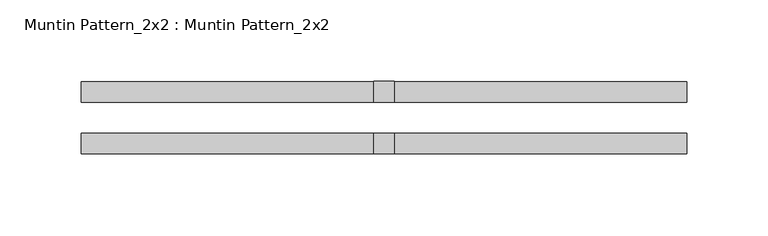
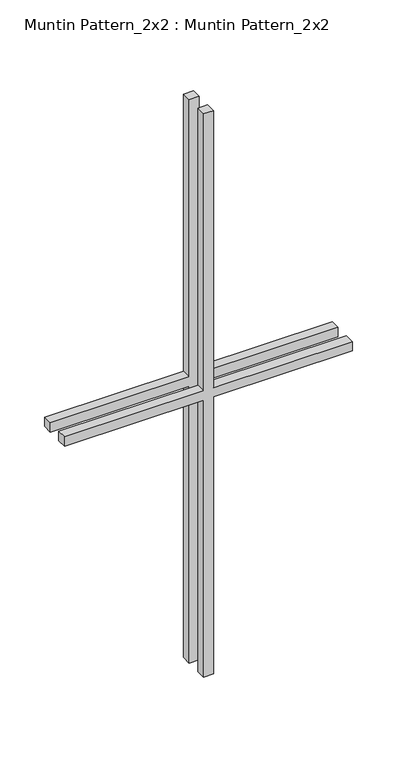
"""IFC4 building model written with IfcOpenShell, lengths in millimetres: proxy geometry, Muntin Pattern_2x2 : Muntin Pattern_2x2."""

from ifc_helpers import new_model, si_unit, frame, origin, place, context, project, spatial, polyline, outline, extrude, source, transform, mapped, element, save


def muntin_pattern_2x2_muntin_pattern_2x2_5e7f5336(model_context):
    return source(origin(), model_context, "Body", "SweptSolid", [
        extrude(outline(polyline([(390.525, -6.35), (390.525, -185.7375), (377.825, -185.7375), (377.825, -6.35), (0.0, -6.35), (0.0, 6.35), (377.825, 6.35), (377.825, 185.7375), (390.525, 185.7375), (390.525, 6.35), (768.35, 6.35), (768.35, -6.35), (390.525, -6.35)])), frame((0.0, 9.525, 0.0), z_axis=(0.0, 1.0, 0.0), x_axis=(0.0, 0.0, 1.0)), (0.0, 0.0, 1.0), 12.7),
        extrude(outline(polyline([(390.525, -6.35), (390.525, -185.7375), (377.825, -185.7375), (377.825, -6.35), (0.0, -6.35), (0.0, 6.35), (377.825, 6.35), (377.825, 185.7375), (390.525, 185.7375), (390.525, 6.35), (768.35, 6.35), (768.35, -6.35), (390.525, -6.35)])), frame((0.0, -22.225, 0.0), z_axis=(0.0, 1.0, 0.0), x_axis=(0.0, 0.0, 1.0)), (0.0, 0.0, 1.0), 12.7),
    ])


if __name__ == "__main__":
    model = new_model("IFC4")
    model_context = context("Model", 3, world=origin())
    ifc_project = project(units=[si_unit("LENGTHUNIT", "METRE", prefix="MILLI")], contexts=[model_context])
    site = spatial("IfcSite", under=ifc_project)
    building = spatial("IfcBuilding", under=site)
    placement = place(None, origin())
    muntin_pattern_2x2_muntin_pattern_2x2_shape = muntin_pattern_2x2_muntin_pattern_2x2_5e7f5336(model_context)
    element("IfcBuildingElementProxy", 1, Name="Muntin Pattern_2x2 : Muntin Pattern_2x2", ObjectType="Muntin Pattern_2x2 : Muntin Pattern_2x2", at=placement, inside=building, context=model_context, shape_type="MappedRepresentation", body=[
        mapped(muntin_pattern_2x2_muntin_pattern_2x2_shape, transform((0.0, 0.0, 0.0), x_axis=(1.0, 0.0, 0.0), y_axis=(0.0, 1.0, 0.0), z_axis=(0.0, 0.0, 1.0))),
    ])
    save(model, "model.ifc")
